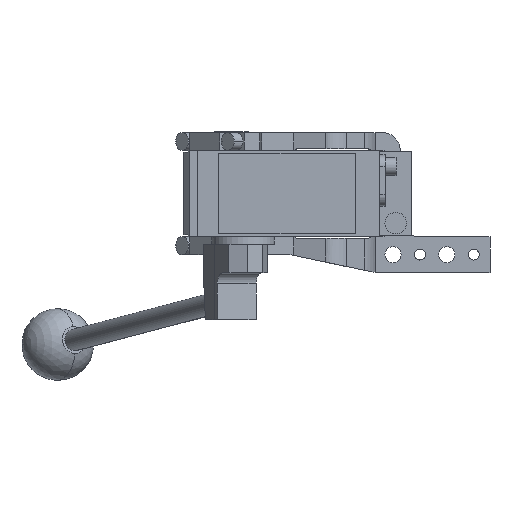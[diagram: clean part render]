
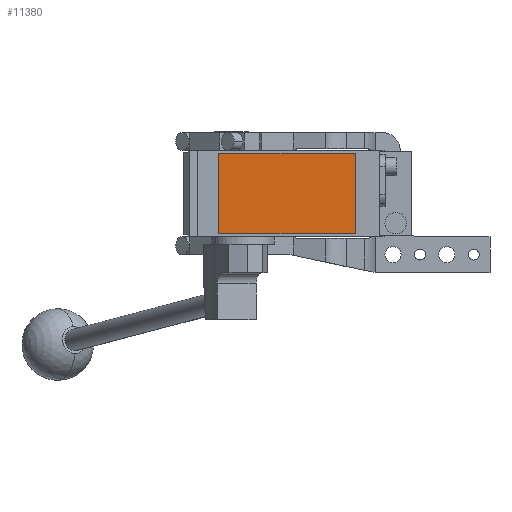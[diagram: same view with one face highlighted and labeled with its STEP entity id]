
A CAD part, front view. The second image highlights one B-rep face of the part: STEP entity #11380.
In plain terms, the highlighted planar face has unit normal (0, -1, 0).
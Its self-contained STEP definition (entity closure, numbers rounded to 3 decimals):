
#12 = CARTESIAN_POINT ( 'NONE',  ( -7., -280.5, -22.5 ) ) ;
#211 = DIRECTION ( 'NONE',  ( 1., 0., 0. ) ) ;
#949 = ORIENTED_EDGE ( 'NONE', *, *, #10348, .T. ) ;
#2878 = LINE ( 'NONE', #13249, #6262 ) ;
#3111 = EDGE_CURVE ( 'NONE', #13798, #5738, #2878, .T. ) ;
#3316 = LINE ( 'NONE', #6468, #5947 ) ;
#3713 = EDGE_CURVE ( 'NONE', #5738, #7423, #5175, .T. ) ;
#4202 = DIRECTION ( 'NONE',  ( 0., 0., 1. ) ) ;
#4490 = VERTEX_POINT ( 'NONE', #12 ) ;
#5175 = LINE ( 'NONE', #7456, #12576 ) ;
#5407 = FACE_OUTER_BOUND ( 'NONE', #8658, .T. ) ;
#5738 = VERTEX_POINT ( 'NONE', #9663 ) ;
#5947 = VECTOR ( 'NONE', #9035, 1000. ) ;
#6262 = VECTOR ( 'NONE', #4202, 1000. ) ;
#6299 = EDGE_CURVE ( 'NONE', #4490, #13798, #8202, .T. ) ;
#6468 = CARTESIAN_POINT ( 'NONE',  ( -7., -280.5, 22.5 ) ) ;
#7423 = VERTEX_POINT ( 'NONE', #11627 ) ;
#7456 = CARTESIAN_POINT ( 'NONE',  ( -7., -280.5, 22.5 ) ) ;
#7613 = DIRECTION ( 'NONE',  ( 0., -1., 0. ) ) ;
#7856 = AXIS2_PLACEMENT_3D ( 'NONE', #8749, #7613, #13410 ) ;
#8202 = LINE ( 'NONE', #11546, #12193 ) ;
#8658 = EDGE_LOOP ( 'NONE', ( #949, #9318, #9451, #12803 ) ) ;
#8749 = CARTESIAN_POINT ( 'NONE',  ( 0., -280.5, 0. ) ) ;
#8820 = CARTESIAN_POINT ( 'NONE',  ( 69., -280.5, -22.5 ) ) ;
#8903 = PLANE ( 'NONE',  #7856 ) ;
#9035 = DIRECTION ( 'NONE',  ( 0., 0., -1. ) ) ;
#9318 = ORIENTED_EDGE ( 'NONE', *, *, #6299, .T. ) ;
#9451 = ORIENTED_EDGE ( 'NONE', *, *, #3111, .T. ) ;
#9663 = CARTESIAN_POINT ( 'NONE',  ( 69., -280.5, 22.5 ) ) ;
#9799 = DIRECTION ( 'NONE',  ( -1., 0., 0. ) ) ;
#10348 = EDGE_CURVE ( 'NONE', #7423, #4490, #3316, .T. ) ;
#11380 = ADVANCED_FACE ( 'NONE', ( #5407 ), #8903, .T. ) ;
#11546 = CARTESIAN_POINT ( 'NONE',  ( -7., -280.5, -22.5 ) ) ;
#11627 = CARTESIAN_POINT ( 'NONE',  ( -7., -280.5, 22.5 ) ) ;
#12193 = VECTOR ( 'NONE', #211, 1000. ) ;
#12576 = VECTOR ( 'NONE', #9799, 1000. ) ;
#12803 = ORIENTED_EDGE ( 'NONE', *, *, #3713, .T. ) ;
#13249 = CARTESIAN_POINT ( 'NONE',  ( 69., -280.5, 22.5 ) ) ;
#13410 = DIRECTION ( 'NONE',  ( 0., 0., -1. ) ) ;
#13798 = VERTEX_POINT ( 'NONE', #8820 ) ;
